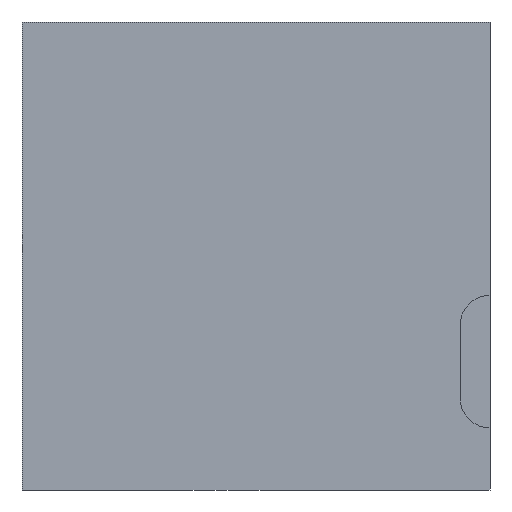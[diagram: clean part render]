
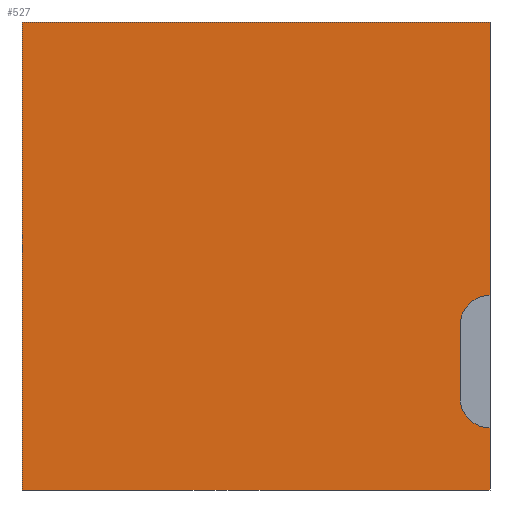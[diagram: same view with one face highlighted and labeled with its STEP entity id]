
A CAD part, front view. The second image highlights one B-rep face of the part: STEP entity #527.
In plain terms, the highlighted planar face has unit normal (0, -1, 0).
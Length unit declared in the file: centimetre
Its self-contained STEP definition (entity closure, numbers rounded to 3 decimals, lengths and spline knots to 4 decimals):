
#31 = AXIS2_PLACEMENT_3D ( 'NONE', #132, #1111, #51 ) ;
#38 = LINE ( 'NONE', #451, #554 ) ;
#51 = DIRECTION ( 'NONE',  ( 0., 0., 1. ) ) ;
#60 = EDGE_CURVE ( 'NONE', #212, #395, #467, .T. ) ;
#71 = CARTESIAN_POINT ( 'NONE',  ( 1000., 0., 415.8981 ) ) ;
#86 = DIRECTION ( 'NONE',  ( 0., 0., 1. ) ) ;
#94 = CARTESIAN_POINT ( 'NONE',  ( 935.9099, 0., 351.8081 ) ) ;
#96 = CARTESIAN_POINT ( 'NONE',  ( 0., 0., 1000. ) ) ;
#128 = CARTESIAN_POINT ( 'NONE',  ( 1000., 0., 1000. ) ) ;
#132 = CARTESIAN_POINT ( 'NONE',  ( 1000., 0., 196.9177 ) ) ;
#153 = LINE ( 'NONE', #482, #956 ) ;
#156 = AXIS2_PLACEMENT_3D ( 'NONE', #1140, #1069, #86 ) ;
#171 = ORIENTED_EDGE ( 'NONE', *, *, #1221, .F. ) ;
#212 = VERTEX_POINT ( 'NONE', #813 ) ;
#213 = DIRECTION ( 'NONE',  ( 0., 0., -1. ) ) ;
#255 = VERTEX_POINT ( 'NONE', #789 ) ;
#258 = EDGE_CURVE ( 'NONE', #539, #635, #917, .T. ) ;
#262 = ORIENTED_EDGE ( 'NONE', *, *, #966, .F. ) ;
#281 = AXIS2_PLACEMENT_3D ( 'NONE', #96, #787, #512 ) ;
#287 = CARTESIAN_POINT ( 'NONE',  ( 0., 0., 1000. ) ) ;
#326 = VECTOR ( 'NONE', #213, 100. ) ;
#358 = VERTEX_POINT ( 'NONE', #713 ) ;
#359 = LINE ( 'NONE', #287, #943 ) ;
#395 = VERTEX_POINT ( 'NONE', #71 ) ;
#448 = EDGE_CURVE ( 'NONE', #840, #358, #359, .T. ) ;
#451 = CARTESIAN_POINT ( 'NONE',  ( 0., 0., 1000. ) ) ;
#455 = ORIENTED_EDGE ( 'NONE', *, *, #448, .T. ) ;
#467 = LINE ( 'NONE', #1154, #1037 ) ;
#482 = CARTESIAN_POINT ( 'NONE',  ( 0., 0., 0. ) ) ;
#506 = ORIENTED_EDGE ( 'NONE', *, *, #729, .F. ) ;
#512 = DIRECTION ( 'NONE',  ( 0., 0., 1. ) ) ;
#514 = DIRECTION ( 'NONE',  ( 0., 0., -1. ) ) ;
#527 = ADVANCED_FACE ( 'NONE', ( #1076 ), #690, .F. ) ;
#539 = VERTEX_POINT ( 'NONE', #880 ) ;
#554 = VECTOR ( 'NONE', #844, 100. ) ;
#604 = CARTESIAN_POINT ( 'NONE',  ( 935.9099, 0., 196.9177 ) ) ;
#610 = ORIENTED_EDGE ( 'NONE', *, *, #973, .T. ) ;
#616 = CARTESIAN_POINT ( 'NONE',  ( 1000., 0., 0. ) ) ;
#635 = VERTEX_POINT ( 'NONE', #616 ) ;
#690 = PLANE ( 'NONE',  #281 ) ;
#713 = CARTESIAN_POINT ( 'NONE',  ( 0., 0., 0. ) ) ;
#729 = EDGE_CURVE ( 'NONE', #395, #998, #815, .T. ) ;
#747 = ORIENTED_EDGE ( 'NONE', *, *, #258, .F. ) ;
#784 = DIRECTION ( 'NONE',  ( 0., 0., -1. ) ) ;
#787 = DIRECTION ( 'NONE',  ( 0., 1., 0. ) ) ;
#789 = CARTESIAN_POINT ( 'NONE',  ( 935.9099, 0., 196.9177 ) ) ;
#793 = VECTOR ( 'NONE', #514, 100. ) ;
#796 = ORIENTED_EDGE ( 'NONE', *, *, #60, .F. ) ;
#813 = CARTESIAN_POINT ( 'NONE',  ( 1000., 0., 1000. ) ) ;
#815 = CIRCLE ( 'NONE', #156, 64.0901 ) ;
#840 = VERTEX_POINT ( 'NONE', #1022 ) ;
#844 = DIRECTION ( 'NONE',  ( 1., 0., 0. ) ) ;
#880 = CARTESIAN_POINT ( 'NONE',  ( 1000., 0., 132.8277 ) ) ;
#917 = LINE ( 'NONE', #128, #793 ) ;
#939 = EDGE_LOOP ( 'NONE', ( #747, #1120, #171, #506, #796, #262, #455, #610 ) ) ;
#943 = VECTOR ( 'NONE', #949, 100. ) ;
#949 = DIRECTION ( 'NONE',  ( 0., 0., -1. ) ) ;
#956 = VECTOR ( 'NONE', #1213, 100. ) ;
#960 = EDGE_CURVE ( 'NONE', #255, #539, #1223, .T. ) ;
#966 = EDGE_CURVE ( 'NONE', #840, #212, #38, .T. ) ;
#973 = EDGE_CURVE ( 'NONE', #358, #635, #153, .T. ) ;
#998 = VERTEX_POINT ( 'NONE', #94 ) ;
#1022 = CARTESIAN_POINT ( 'NONE',  ( 0., 0., 1000. ) ) ;
#1037 = VECTOR ( 'NONE', #784, 100. ) ;
#1069 = DIRECTION ( 'NONE',  ( 0., -1., 0. ) ) ;
#1076 = FACE_OUTER_BOUND ( 'NONE', #939, .T. ) ;
#1111 = DIRECTION ( 'NONE',  ( 0., -1., 0. ) ) ;
#1120 = ORIENTED_EDGE ( 'NONE', *, *, #960, .F. ) ;
#1140 = CARTESIAN_POINT ( 'NONE',  ( 1000., 0., 351.8081 ) ) ;
#1154 = CARTESIAN_POINT ( 'NONE',  ( 1000., 0., 1000. ) ) ;
#1176 = LINE ( 'NONE', #604, #326 ) ;
#1213 = DIRECTION ( 'NONE',  ( 1., 0., 0. ) ) ;
#1221 = EDGE_CURVE ( 'NONE', #998, #255, #1176, .T. ) ;
#1223 = CIRCLE ( 'NONE', #31, 64.0901 ) ;
